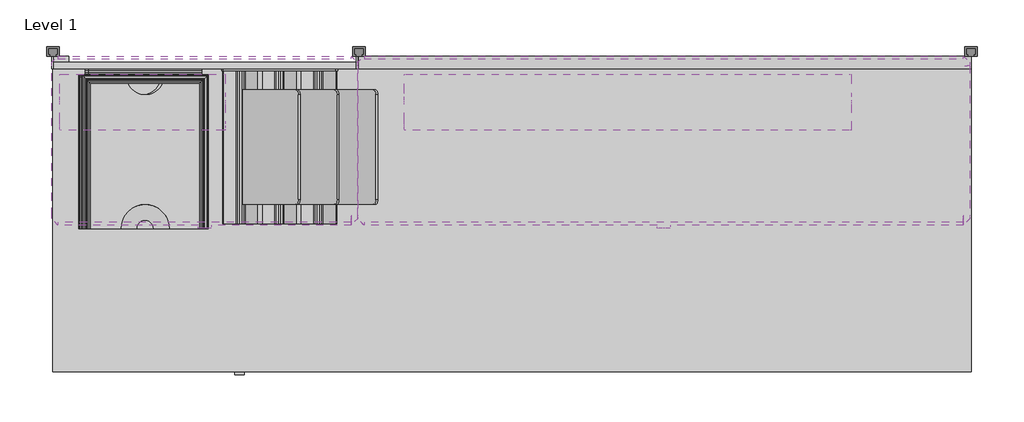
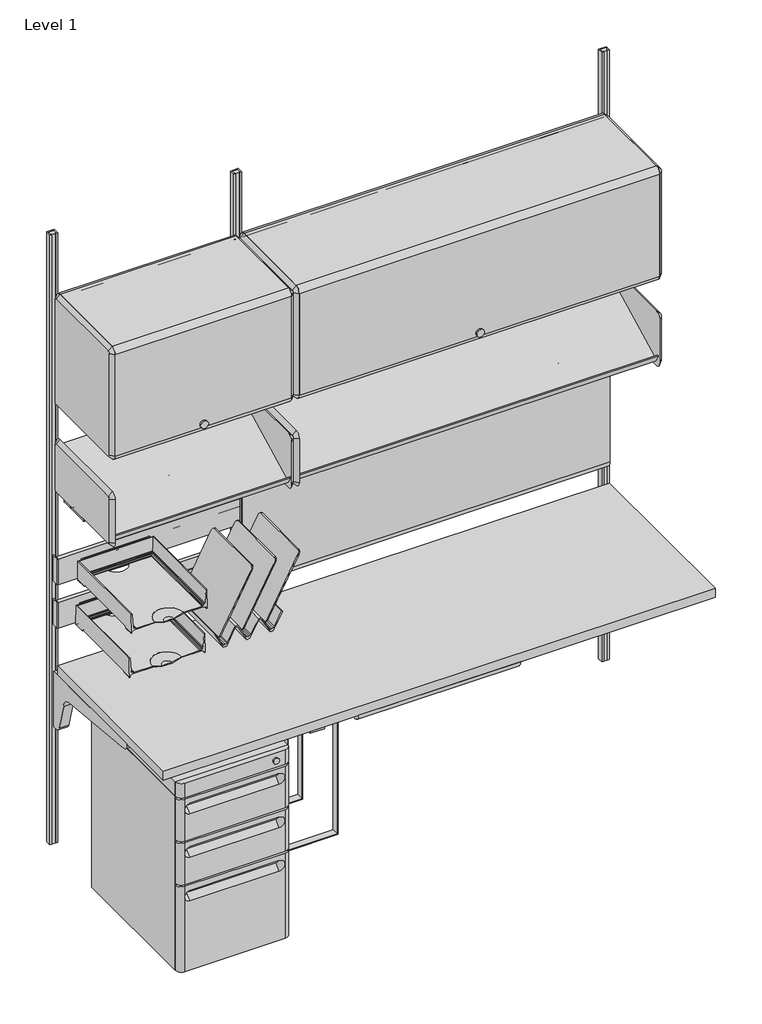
# One storey, incomplete: 17 furniture elements, 2 light fixtures.
"""IFC4 building model written with IfcOpenShell, lengths in millimetres."""

from ifc_helpers import new_model, si_unit, origin, place, context, project, spatial, transform, mapped, element, save
from components import furniture_7da167ec, furniture_ba537c3b, furniture_5639b6dc, furniture_af2524bc, furniture_f058e72c, furniture_8254671f, furniture_cb78dd66, furniture_439dfb7c, furniture_33cd207f, furniture_f3dbc57d, furniture_2ec89b50, furniture_03e73c74, furniture_fea97cc0, furniture_ea425779, vertical_72eab502, light_fixture_601a4b46, light_fixture_d42206f9

model = new_model("IFC4")

# Units and contexts
model_context = context("Model", 3, world=origin())
ifc_project = project(units=[si_unit("LENGTHUNIT", "METRE", prefix="MILLI")], contexts=[model_context])

# Site, building, storey
site = spatial("IfcSite", under=ifc_project)
building = spatial("IfcBuilding", under=site)
storey = spatial("IfcBuildingStorey", under=building, Name="Level 1", Elevation=0.0)

# Furniture
placement = place(None, origin())
furniture_shape = furniture_7da167ec(model_context)
element("IfcFurniture", 1, ObjectType="HermanMiller_Quadrant_G5110_B-PullFreestandingPedestal : 26-1/2\"H x 20\"D x 15\"W BBF", at=placement, inside=storey, context=model_context, shape_type="MappedRepresentation", body=[
    mapped(furniture_shape, transform((237.01502, -398.4625, 0.0), x_axis=(1.0, 0.0, 0.0), y_axis=(0.0, 1.0, 0.0), z_axis=(0.0, 0.0, 1.0))),
])
furniture_2_shape = furniture_ba537c3b(model_context)
element("IfcFurniture", 2, ObjectType="HermanMiller_ThrivePortfolio_Y7216_PaperTray : 3\"H x 12\"D x 10\"W", at=placement, inside=storey, context=model_context, shape_type="MappedRepresentation", body=[
    mapped(furniture_2_shape, transform((183.5404, -209.0405855, 0.0), x_axis=(1.0, 0.0, 0.0), y_axis=(0.0, 1.0, 0.0), z_axis=(0.0, 0.0, 1.0))),
])
furniture_3_shape = furniture_5639b6dc(model_context)
element("IfcFurniture", 3, ObjectType="HermanMiller_ThrivePortfolio_Y5010_PencilDrawer : 2\"H x 16\"D x 21\"W", at=placement, inside=storey, context=model_context, shape_type="MappedRepresentation", body=[
    mapped(furniture_3_shape, transform((915.9875, -441.325, 0.0), x_axis=(1.0, 0.0, 0.0), y_axis=(0.0, 1.0, 0.0), z_axis=(0.0, 0.0, 1.0))),
])
furniture_4_shape = furniture_af2524bc(model_context)
element("IfcFurniture", 4, ObjectType="HermanMiller_ThrivePortfolio_Y7218_DiagonalTray : 8 1/2\"H x 12\"D x 13\"W", at=placement, inside=storey, context=model_context, shape_type="MappedRepresentation", body=[
    mapped(furniture_4_shape, transform((451.784477, -198.61276, 0.0), x_axis=(1.0, 0.0, 0.0), y_axis=(0.0, 1.0, 0.0), z_axis=(0.0, 0.0, 1.0))),
])
furniture_5_shape = furniture_f058e72c(model_context)
element("IfcFurniture", 5, ObjectType="HermanMiller_ThrivePortfolio_Y7216_PaperTray : 3\"H x 12\"D x 10\"W", at=placement, inside=storey, context=model_context, shape_type="MappedRepresentation", body=[
    mapped(furniture_5_shape, transform((177.1904, -209.0405855, 0.0), x_axis=(1.0, 0.0, 0.0), y_axis=(0.0, 1.0, 0.0), z_axis=(0.0, 0.0, 1.0))),
])
furniture_6_shape = furniture_8254671f(model_context)
element("IfcFurniture", 6, ObjectType="HermanMiller_ActionOffice_A3610_ToolBar : 4\"H x 24\"W", at=placement, inside=storey, context=model_context, shape_type="MappedRepresentation", body=[
    mapped(furniture_6_shape, transform((302.12538, -31.7499996, 0.0), x_axis=(1.0, 0.0, 0.0), y_axis=(0.0, 1.0, 0.0), z_axis=(0.0, 0.0, 1.0))),
])
furniture_7_shape = furniture_cb78dd66(model_context)
element("IfcFurniture", 7, ObjectType="HermanMiller_ActionOffice_A3410_B-StyleTackboard : 16\"H x 48\"W", at=placement, inside=storey, context=model_context, shape_type="MappedRepresentation", body=[
    mapped(furniture_7_shape, transform((1219.2, -31.75, 0.0), x_axis=(1.0, 0.0, 0.0), y_axis=(0.0, 1.0, 0.0), z_axis=(0.0, 0.0, 1.0))),
])
furniture_8_shape = furniture_439dfb7c(model_context)
element("IfcFurniture", 8, ObjectType="HermanMiller_ActionOffice_A3220_B-StyleStorageDisplay : Display 13\"D x 48\"W", at=placement, inside=storey, context=model_context, shape_type="MappedRepresentation", body=[
    mapped(furniture_8_shape, transform((1340.4673845, -200.025, 0.0), x_axis=(1.0, 0.0, 0.0), y_axis=(0.0, 1.0, 0.0), z_axis=(0.0, 0.0, 1.0))),
])
furniture_9_shape = furniture_33cd207f(model_context)
element("IfcFurniture", 9, ObjectType="HermanMiller_ActionOffice_A3352_B-StyleFlipperDoorUnit : 15 1/2\"H x 13\"D x 48\"W", at=placement, inside=storey, context=model_context, shape_type="MappedRepresentation", body=[
    mapped(furniture_9_shape, transform((1216.52538, -200.025, 0.0), x_axis=(1.0, 0.0, 0.0), y_axis=(0.0, 1.0, 0.0), z_axis=(0.0, 0.0, 1.0))),
])
furniture_10_shape = furniture_f3dbc57d(model_context)
element("IfcFurniture", 10, ObjectType="HermanMiller_ActionOffice_A2310_Sq-EdgeRectangularWorkSurface : 24\"D x 72\"W", at=placement, inside=storey, context=model_context, shape_type="MappedRepresentation", body=[
    mapped(furniture_10_shape, transform((914.4, -333.375, 0.0), x_axis=(1.0, 0.0, 0.0), y_axis=(0.0, 1.0, 0.0), z_axis=(0.0, 0.0, 1.0))),
])
furniture_11_shape = furniture_2ec89b50(model_context)
element("IfcFurniture", 11, ObjectType="HermanMiller_ActionOffice_A3610_ToolBar : 4\"H x 24\"W", at=placement, inside=storey, context=model_context, shape_type="MappedRepresentation", body=[
    mapped(furniture_11_shape, transform((302.12538, -31.7499996, 0.0), x_axis=(1.0, 0.0, 0.0), y_axis=(0.0, 1.0, 0.0), z_axis=(0.0, 0.0, 1.0))),
])
furniture_12_shape = furniture_03e73c74(model_context)
element("IfcFurniture", 12, ObjectType="HermanMiller_ActionOffice_A3220_B-StyleStorageDisplay : Display 13\"D x 24\"W", at=placement, inside=storey, context=model_context, shape_type="MappedRepresentation", body=[
    mapped(furniture_12_shape, transform((426.0673845, -200.025, 0.0), x_axis=(1.0, 0.0, 0.0), y_axis=(0.0, 1.0, 0.0), z_axis=(0.0, 0.0, 1.0))),
])
furniture_13_shape = furniture_fea97cc0(model_context)
element("IfcFurniture", 13, ObjectType="HermanMiller_ActionOffice_A3352_B-StyleFlipperDoorUnit : 15 1/2\"H x 13\"D x 24\"W", at=placement, inside=storey, context=model_context, shape_type="MappedRepresentation", body=[
    mapped(furniture_13_shape, transform((302.12538, -200.025, 0.0), x_axis=(1.0, 0.0, 0.0), y_axis=(0.0, 1.0, 0.0), z_axis=(0.0, 0.0, 1.0))),
])
furniture_14_shape = furniture_ea425779(model_context)
element("IfcFurniture", 14, ObjectType="HermanMiller_ActionOffice_AO213_WallStrip : 84\"H", at=placement, inside=storey, context=model_context, shape_type="MappedRepresentation", body=[
    mapped(furniture_14_shape, transform((1828.8, 0.0, 0.0), x_axis=(1.0, 0.0, 0.0), y_axis=(0.0, 1.0, 0.0), z_axis=(0.0, 0.0, 1.0))),
])
element("IfcFurniture", 15, ObjectType="HermanMiller_ActionOffice_AO213_WallStrip : 84\"H", at=placement, inside=storey, context=model_context, shape_type="MappedRepresentation", body=[
    mapped(furniture_14_shape, transform((609.6, 0.0, 0.0), x_axis=(1.0, 0.0, 0.0), y_axis=(0.0, 1.0, 0.0), z_axis=(0.0, 0.0, 1.0))),
])
element("IfcFurniture", 16, ObjectType="HermanMiller_ActionOffice_AO213_WallStrip : 84\"H", at=placement, inside=storey, context=model_context, shape_type="MappedRepresentation", body=[
    mapped(furniture_14_shape, transform((0.0, 0.0, 0.0), x_axis=(1.0, 0.0, 0.0), y_axis=(0.0, 1.0, 0.0), z_axis=(0.0, 0.0, 1.0))),
])
vertical_shape = vertical_72eab502(model_context)
element("IfcFurniture", 17, ObjectType="HermanMiller_ThrivePortfolio_Y7813_CPUHolder : Vertical", at=placement, inside=storey, context=model_context, shape_type="MappedRepresentation", body=[
    mapped(vertical_shape, transform((519.1125, -492.30026, 212.725), x_axis=(1.0, 0.0, 0.0), y_axis=(0.0, 1.0, 0.0), z_axis=(0.0, 0.0, 1.0))),
])

# Light fixtures
light_fixture_shape = light_fixture_601a4b46(model_context)
element("IfcLightFixture", 18, ObjectType="HermanMiller_SupplementalProducts_G6136_UtilityTaskLight : AO Etho Canvas 42W", at=placement, inside=storey, context=model_context, shape_type="MappedRepresentation", body=[
    mapped(light_fixture_shape, transform((1144.64338, -111.125, 0.0), x_axis=(1.0, 0.0, 0.0), y_axis=(0.0, 1.0, 0.0), z_axis=(0.0, 0.0, 1.0))),
])
light_fixture_2_shape = light_fixture_d42206f9(model_context)
element("IfcLightFixture", 19, ObjectType="HermanMiller_SupplementalProducts_G6136_UtilityTaskLight : AO Etho Canvas 24W", at=placement, inside=storey, context=model_context, shape_type="MappedRepresentation", body=[
    mapped(light_fixture_2_shape, transform((178.55438, -111.125, 0.0), x_axis=(1.0, 0.0, 0.0), y_axis=(0.0, 1.0, 0.0), z_axis=(0.0, 0.0, 1.0))),
])

save(model, "model.ifc")
